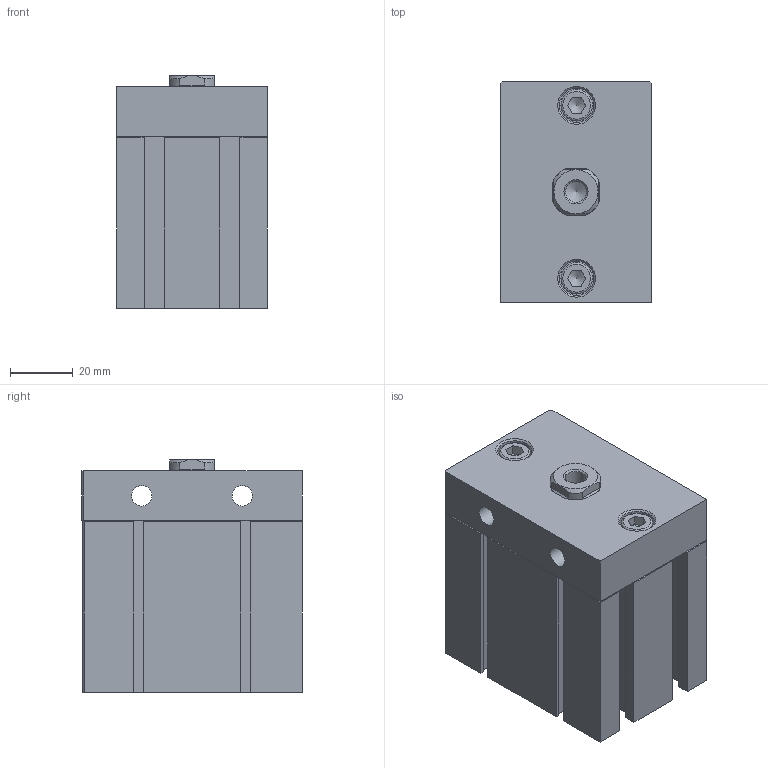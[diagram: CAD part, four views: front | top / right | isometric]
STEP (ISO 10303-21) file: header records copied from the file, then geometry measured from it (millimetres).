
FILE_DESCRIPTION((''),'2;1');
FILE_NAME('I:\3D電子目錄\氣缸\ND\ND\ND40\ND40x20.stp','2007-07-30T19:05:34',('Administrator'),(''),'Autodesk Inventor 11','Autodesk Inventor 11','');
FILE_SCHEMA(('AUTOMOTIVE_DESIGN { 1 0 10303 214 1 1 1 1 }'));
Length unit declared in the file: millimetre
Products named in the file (4): ND40; R 形環 42; ISO 4762 M6 x 20
Assembly tree (4 placements, depth 2):
  ND40
    ND40
    R 形環 42
    ISO 4762 M6 x 20  x2
Bounding box: 48 x 70.1 x 74 mm (x, y, z)
Volume: 210449.6 mm3; surface area: 39133.6 mm2
Topology: 5 solids, 5 shells, 195 faces, 467 edges, 297 vertices
Faces by surface type: plane 133, cylinder 25, cone 18, bspline 16, torus 3
Full cylindrical faces by diameter (mm): 1.9 x2, 2.2 x2, 6 x2, 6.5 x2, 10 x2, 11 x2, 29 x1, 42 x1, 44.5 x1
Entity records: 5217 total; most frequent: CARTESIAN_POINT 1095, DIRECTION 812, ORIENTED_EDGE 782, EDGE_CURVE 391, VECTOR 288, LINE 288, VERTEX_POINT 271, AXIS2_PLACEMENT_3D 262
